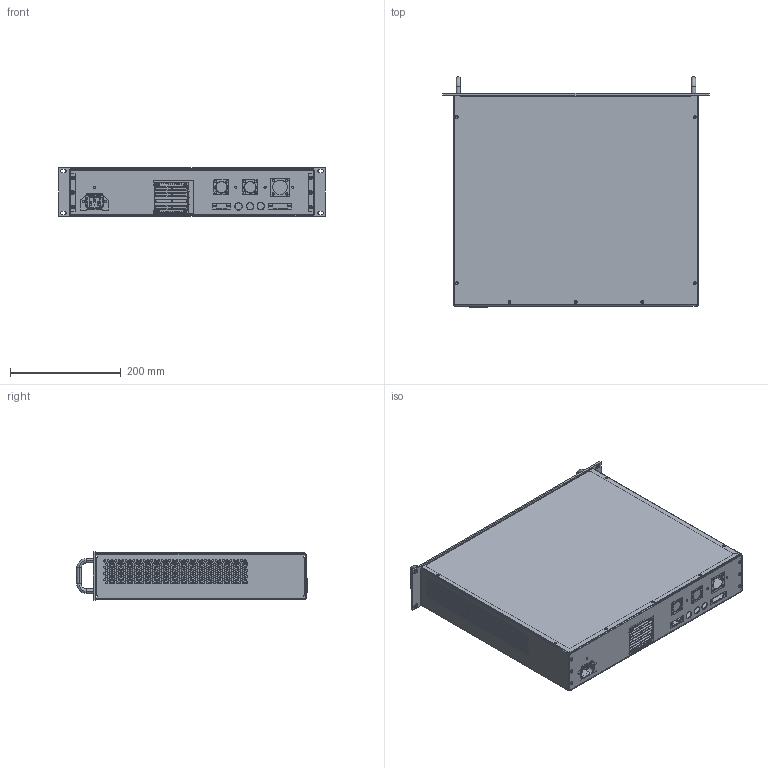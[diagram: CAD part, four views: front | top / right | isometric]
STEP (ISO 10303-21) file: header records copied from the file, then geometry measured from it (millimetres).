
FILE_DESCRIPTION(('Creo Elements/Direct Modeling STEP Export'),'2;1');
FILE_NAME('ITZ_RACK_BLACKBOX.stp','2014-11-10T14:01:44',(''),(''),'Creo Elements/Direct Modeling STEP processor for AP214 (Solid Model)','Creo Elements/Direct Modeling 17.0E 05-Feb-2012 (C) Parametric Technology GmbH','');
FILE_SCHEMA(('AUTOMOTIVE_DESIGN { 1 0 10303 214 1 1 1 1 }'));
Products named in the file (1): FRAME.1
Bounding box: 482 x 416.2 x 88 mm (x, y, z)
Volume: 632270.2 mm3; surface area: 974188 mm2
Topology: 1 solids, 1 shells, 2249 faces, 6423 edges, 4181 vertices
Faces by surface type: cylinder 1375, plane 816, cone 34, torus 18, bspline 6
Entity records: 73593 total; most frequent: ORIENTED_EDGE 12840, CARTESIAN_POINT 11766, DIRECTION 11267, EDGE_CURVE 6419, VERTEX_POINT 4179, AXIS2_PLACEMENT_3D 3884, VECTOR 3499, LINE 3499
